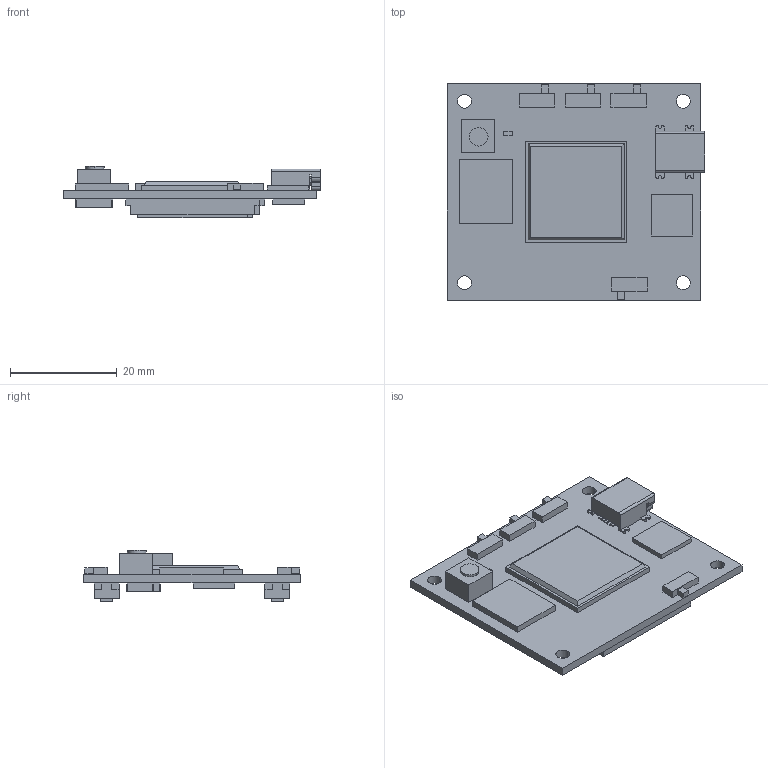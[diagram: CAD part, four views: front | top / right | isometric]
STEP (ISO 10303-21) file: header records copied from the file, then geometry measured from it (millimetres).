
FILE_DESCRIPTION (( 'STEP AP203' ), '1' );
FILE_NAME ('TE0300.STEP', '2010-10-12T14:42:11', ( 'Ales Gorkic' ), ( 'HP' ), 'SwSTEP 2.0', 'SolidWorks 2009', '' );
FILE_SCHEMA (( 'CONFIG_CONTROL_DESIGN' ));
Length unit declared in the file: millimetre
Products named in the file (12): TE0300; TE0300_plata; FLASH; FX2; DDR; Spartan3_FG320; LED0603; MUSB-05-S-B-SM-A; DF17-30-080DS-05V; Oscillator; Slide_SW; PushButton
Assembly tree (16 placements, depth 2):
  TE0300
    PushButton
    TE0300_plata
    LED0603
    Slide_SW  x4
    Oscillator  x2
    FX2
    DDR
    FLASH
    DF17-30-080DS-05V  x2
    MUSB-05-S-B-SM-A
    Spartan3_FG320
Bounding box: 48.3 x 40.5 x 9.6 mm (x, y, z)
Volume: 4971.9 mm3; surface area: 8017.2 mm2
Topology: 16 solids, 16 shells, 367 faces, 946 edges, 628 vertices
Faces by surface type: plane 297, cylinder 66, cone 4
Entity records: 10567 total; most frequent: CARTESIAN_POINT 1890, ORIENTED_EDGE 1532, DIRECTION 1440, EDGE_CURVE 766, VECTOR 590, LINE 590, VERTEX_POINT 508, AXIS2_PLACEMENT_3D 425
